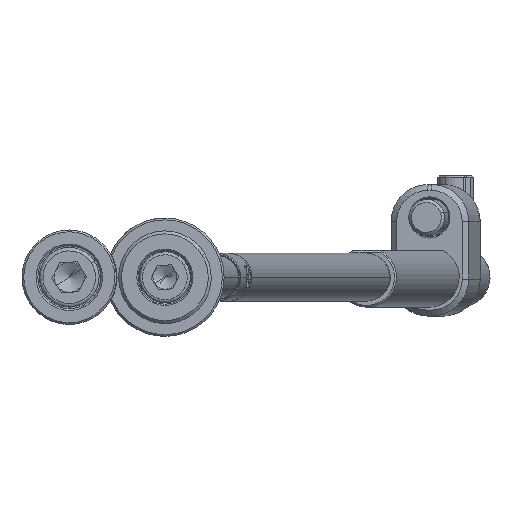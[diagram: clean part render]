
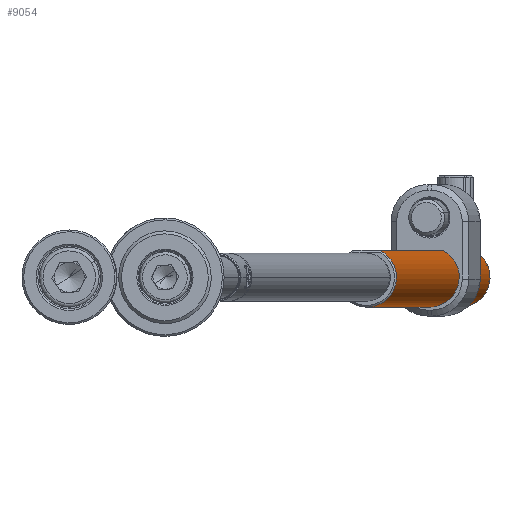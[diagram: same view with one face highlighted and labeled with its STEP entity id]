
A CAD part, front view. The second image highlights one B-rep face of the part: STEP entity #9054.
In plain terms, the highlighted cylindrical face has radius 5 mm (diameter 10 mm), a partial arc.
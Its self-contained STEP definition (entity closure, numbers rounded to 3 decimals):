
#182 = CARTESIAN_POINT ( 'NONE',  ( 4., -3., 10.198 ) ) ;
#200 = DIRECTION ( 'NONE',  ( 0., 0., -1. ) ) ;
#244 = CARTESIAN_POINT ( 'NONE',  ( 4.438, -2.308, 8.074 ) ) ;
#530 = DIRECTION ( 'NONE',  ( 0., 0., -1. ) ) ;
#590 = DIRECTION ( 'NONE',  ( 1., 0., 0. ) ) ;
#682 = B_SPLINE_CURVE_WITH_KNOTS ( 'NONE', 3,
 ( #10116, #7846, #2406, #5723, #9173, #12227, #13289, #6711, #182, #1461, #4587, #5932, #1535, #6920, #10193, #12434, #244, #6786 ),
 .UNSPECIFIED., .F., .F.,
 ( 4, 2, 2, 2, 2, 2, 2, 2, 4 ),
 ( 0., 0.001, 0.001, 0.002, 0.002, 0.003, 0.003, 0.004, 0.005 ),
 .UNSPECIFIED. ) ;
#883 = ORIENTED_EDGE ( 'NONE', *, *, #10393, .T. ) ;
#1181 = CARTESIAN_POINT ( 'NONE',  ( -5., 0., 199.7 ) ) ;
#1313 = VERTEX_POINT ( 'NONE', #5458 ) ;
#1461 = CARTESIAN_POINT ( 'NONE',  ( 4., -3., 9.809 ) ) ;
#1523 = CARTESIAN_POINT ( 'NONE',  ( 4.5, -2.179, 0.3 ) ) ;
#1535 = CARTESIAN_POINT ( 'NONE',  ( 4.107, -2.852, 9.051 ) ) ;
#1559 = CARTESIAN_POINT ( 'NONE',  ( 4.5, -2.179, 12.062 ) ) ;
#1832 = EDGE_CURVE ( 'NONE', #5758, #1313, #682, .T. ) ;
#2406 = CARTESIAN_POINT ( 'NONE',  ( 4.376, -2.421, 11.781 ) ) ;
#2446 = CARTESIAN_POINT ( 'NONE',  ( -5., 0., 0.3 ) ) ;
#2572 = EDGE_CURVE ( 'NONE', #12806, #4799, #7231, .T. ) ;
#2707 = FACE_OUTER_BOUND ( 'NONE', #14050, .T. ) ;
#2749 = CARTESIAN_POINT ( 'NONE',  ( 0., 0., 0.3 ) ) ;
#2809 = DIRECTION ( 'NONE',  ( 0., 0., 1. ) ) ;
#2930 = LINE ( 'NONE', #8679, #4658 ) ;
#3634 = DIRECTION ( 'NONE',  ( 0., 0., -1. ) ) ;
#3638 = VERTEX_POINT ( 'NONE', #1181 ) ;
#4435 = ORIENTED_EDGE ( 'NONE', *, *, #7766, .F. ) ;
#4587 = CARTESIAN_POINT ( 'NONE',  ( 4.014, -2.982, 9.617 ) ) ;
#4658 = VECTOR ( 'NONE', #9765, 1000. ) ;
#4799 = VERTEX_POINT ( 'NONE', #1523 ) ;
#5458 = CARTESIAN_POINT ( 'NONE',  ( 4.5, -2.179, 7.938 ) ) ;
#5462 = EDGE_CURVE ( 'NONE', #7836, #3638, #11300, .T. ) ;
#5718 = CARTESIAN_POINT ( 'NONE',  ( -5., 0., 200. ) ) ;
#5723 = CARTESIAN_POINT ( 'NONE',  ( 4.259, -2.621, 11.47 ) ) ;
#5758 = VERTEX_POINT ( 'NONE', #1559 ) ;
#5932 = CARTESIAN_POINT ( 'NONE',  ( 4.068, -2.908, 9.236 ) ) ;
#5987 = CARTESIAN_POINT ( 'NONE',  ( 0., 0., 200. ) ) ;
#6059 = DIRECTION ( 'NONE',  ( 0., 0., -1. ) ) ;
#6711 = CARTESIAN_POINT ( 'NONE',  ( 4.015, -2.98, 10.396 ) ) ;
#6786 = CARTESIAN_POINT ( 'NONE',  ( 4.5, -2.179, 7.938 ) ) ;
#6920 = CARTESIAN_POINT ( 'NONE',  ( 4.202, -2.711, 8.701 ) ) ;
#6995 = LINE ( 'NONE', #5718, #8779 ) ;
#7046 = EDGE_CURVE ( 'NONE', #7836, #5758, #2930, .T. ) ;
#7231 = CIRCLE ( 'NONE', #7673, 5. ) ;
#7673 = AXIS2_PLACEMENT_3D ( 'NONE', #2749, #2809, #590 ) ;
#7766 = EDGE_CURVE ( 'NONE', #1313, #4799, #9305, .T. ) ;
#7836 = VERTEX_POINT ( 'NONE', #11290 ) ;
#7846 = CARTESIAN_POINT ( 'NONE',  ( 4.438, -2.307, 11.926 ) ) ;
#7917 = ORIENTED_EDGE ( 'NONE', *, *, #7046, .F. ) ;
#8679 = CARTESIAN_POINT ( 'NONE',  ( 4.5, -2.179, 200. ) ) ;
#8776 = CARTESIAN_POINT ( 'NONE',  ( 0., 0., 199.7 ) ) ;
#8779 = VECTOR ( 'NONE', #3634, 1000. ) ;
#9054 = ADVANCED_FACE ( 'NONE', ( #2707 ), #10322, .T. ) ;
#9173 = CARTESIAN_POINT ( 'NONE',  ( 4.203, -2.709, 11.303 ) ) ;
#9241 = ORIENTED_EDGE ( 'NONE', *, *, #2572, .T. ) ;
#9305 = LINE ( 'NONE', #13654, #12895 ) ;
#9310 = DIRECTION ( 'NONE',  ( -1., 0., 0. ) ) ;
#9765 = DIRECTION ( 'NONE',  ( 0., 0., -1. ) ) ;
#10116 = CARTESIAN_POINT ( 'NONE',  ( 4.5, -2.179, 12.062 ) ) ;
#10193 = CARTESIAN_POINT ( 'NONE',  ( 4.258, -2.623, 8.532 ) ) ;
#10322 = CYLINDRICAL_SURFACE ( 'NONE', #11419, 5. ) ;
#10393 = EDGE_CURVE ( 'NONE', #3638, #12806, #6995, .T. ) ;
#11021 = ORIENTED_EDGE ( 'NONE', *, *, #1832, .F. ) ;
#11290 = CARTESIAN_POINT ( 'NONE',  ( 4.5, -2.179, 199.7 ) ) ;
#11300 = CIRCLE ( 'NONE', #13811, 5. ) ;
#11419 = AXIS2_PLACEMENT_3D ( 'NONE', #5987, #530, #9310 ) ;
#12227 = CARTESIAN_POINT ( 'NONE',  ( 4.108, -2.851, 10.952 ) ) ;
#12434 = CARTESIAN_POINT ( 'NONE',  ( 4.376, -2.422, 8.22 ) ) ;
#12806 = VERTEX_POINT ( 'NONE', #2446 ) ;
#12895 = VECTOR ( 'NONE', #6059, 1000. ) ;
#13123 = DIRECTION ( 'NONE',  ( 1., 0., 0. ) ) ;
#13255 = ORIENTED_EDGE ( 'NONE', *, *, #5462, .T. ) ;
#13289 = CARTESIAN_POINT ( 'NONE',  ( 4.069, -2.906, 10.771 ) ) ;
#13654 = CARTESIAN_POINT ( 'NONE',  ( 4.5, -2.179, 200. ) ) ;
#13811 = AXIS2_PLACEMENT_3D ( 'NONE', #8776, #200, #13123 ) ;
#14050 = EDGE_LOOP ( 'NONE', ( #13255, #883, #9241, #4435, #11021, #7917 ) ) ;
